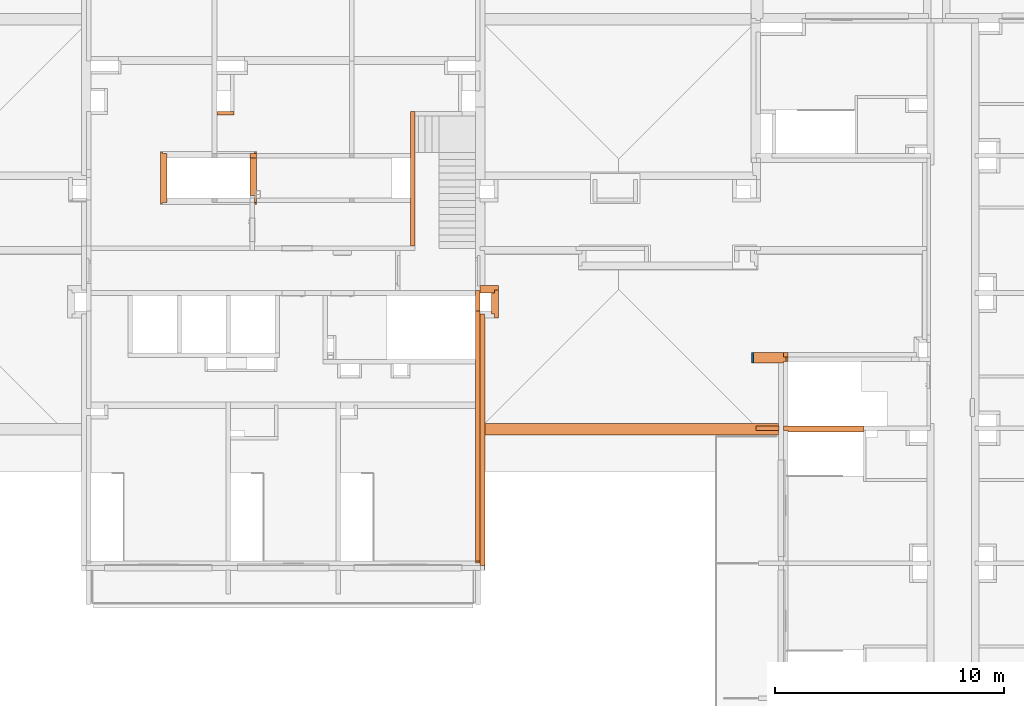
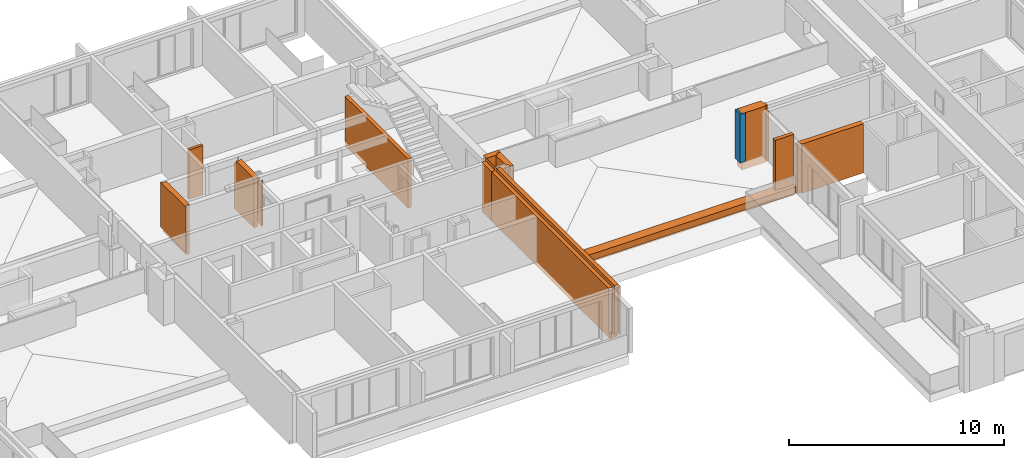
# One storey, part 21 of 30: 12 proxies, 1 wall, 1 opening.
"""IFC2X3 building model written with IfcOpenShell, lengths in millimetres."""

import ifcopenshell
import ifcopenshell.guid

model = None  # the IFC model being written
_history = None  # IfcOwnerHistory: only IFC2X3 demands one
_inside = {}  # id of a spatial element -> (the spatial element, [elements in it])
_under = {}  # id of a project, library or spatial element -> (it, [spatial elements below it])
_declared = {}  # id of a project -> (the project, [libraries it declares])
_typed = {}  # id of a type object -> (the type object, [elements of that type])
_made_of = {}  # id of a material, layer set ... -> (it, [elements and type objects made of it])


def new_model(schema):
    """Start an empty IFC model of exactly this schema.

    Asked for "IFC4X3", IfcOpenShell would pick the latest addendum, in which some entities
    have other attributes; the version numbers below select the first issue.
    IFC2X3 requires an IfcOwnerHistory on every rooted entity: one is made here for all.
    """
    global model, _history
    if schema == "IFC4X3":
        model = ifcopenshell.file(schema_version=(4, 3, 0, 0))
    else:
        model = ifcopenshell.file(schema=schema)
    _inside.clear()
    _under.clear()
    _declared.clear()
    _typed.clear()
    _made_of.clear()
    _history = None
    if model.schema == "IFC2X3":
        org = make("IfcOrganization", Name="unknown")
        user = make(
            "IfcPersonAndOrganization",
            ThePerson=make("IfcPerson", FamilyName="unknown"),
            TheOrganization=org,
        )
        app = make(
            "IfcApplication",
            ApplicationDeveloper=org,
            Version="unknown",
            ApplicationFullName="unknown",
            ApplicationIdentifier="unknown",
        )
        _history = make(
            "IfcOwnerHistory",
            OwningUser=user,
            OwningApplication=app,
            ChangeAction="ADDED",
            CreationDate=0,
        )
    return model


def make(cls, **values):
    """One entity of the class cls with the attributes given. An attribute that is None is left unset."""
    return model.create_entity(
        cls, **{name: value for name, value in values.items() if value is not None}
    )


def entity(cls, *values):
    """Any entity or typed value of the class cls, its attributes in the order of the schema. None: left unset."""
    e = model.create_entity(cls)
    for i, value in enumerate(values):
        if value is not None:
            e[i] = value
    return e


def rooted(cls, **values):
    """An entity with a GlobalId (a new one), such as an element, a storey or a relation."""
    return make(cls, GlobalId=ifcopenshell.guid.new(), OwnerHistory=_history, **values)


def si_unit(unit_type, name, prefix=None):
    """IfcSIUnit, for example si_unit("LENGTHUNIT", "METRE", prefix="MILLI")."""
    return make("IfcSIUnit", UnitType=unit_type, Prefix=prefix, Name=name)


def converted_unit(unit_type, name, factor, base, dimensions=None, offset=None):
    """IfcConversionBasedUnit, such as the inch: factor (a typed value) times the base unit."""
    return make(
        "IfcConversionBasedUnit"
        if offset is None
        else "IfcConversionBasedUnitWithOffset",
        ConversionOffset=offset,
        Dimensions=None
        if dimensions is None
        else entity("IfcDimensionalExponents", *dimensions),
        UnitType=unit_type,
        Name=name,
        ConversionFactor=make(
            "IfcMeasureWithUnit", ValueComponent=factor, UnitComponent=base
        ),
    )


def derived_unit(unit_type, elements):
    """IfcDerivedUnit: a product of units, each with its exponent."""
    return make(
        "IfcDerivedUnit",
        Elements=[
            make("IfcDerivedUnitElement", Unit=unit, Exponent=power)
            for unit, power in elements
        ],
        UnitType=unit_type,
    )


def money_unit(currency):
    """IfcMonetaryUnit."""
    return make("IfcMonetaryUnit", Currency=currency)


def assignment(units):
    """IfcUnitAssignment: the units of a project."""
    return None if units is None else make("IfcUnitAssignment", Units=units)


def point(xyz):
    """IfcCartesianPoint."""
    return None if xyz is None else make("IfcCartesianPoint", Coordinates=xyz)


def direction(xyz):
    """IfcDirection."""
    return None if xyz is None else make("IfcDirection", DirectionRatios=xyz)


def frame(location, z_axis=None, x_axis=None):
    """IfcAxis2Placement3D, a coordinate frame: its origin and axes. An axis left out is left unset."""
    return make(
        "IfcAxis2Placement3D",
        Location=point(location),
        Axis=direction(z_axis),
        RefDirection=direction(x_axis),
    )


def frame_2d(location, x_axis=None):
    """IfcAxis2Placement2D, a coordinate frame in the plane: its origin and x axis."""
    return make(
        "IfcAxis2Placement2D", Location=point(location), RefDirection=direction(x_axis)
    )


def origin_with_axes():
    """The frame at (0, 0, 0) with the z axis (0, 0, 1) and the x axis (1, 0, 0) written out."""
    return frame((0.0, 0.0, 0.0), z_axis=(0.0, 0.0, 1.0), x_axis=(1.0, 0.0, 0.0))


def origin_2d_with_axis():
    """The frame at (0, 0) in the plane with the x axis (1, 0) written out."""
    return frame_2d((0.0, 0.0), x_axis=(1.0, 0.0))


def place(relative_to, where):
    """IfcLocalPlacement: puts the frame where relative to a parent placement (None: the world)."""
    return make(
        "IfcLocalPlacement", PlacementRelTo=relative_to, RelativePlacement=where
    )


def context(
    kind, dimensions, precision=None, world=None, true_north=None, identifier=None
):
    """IfcGeometricRepresentationContext, for example the 3D "Model" context."""
    return make(
        "IfcGeometricRepresentationContext",
        ContextIdentifier=identifier,
        ContextType=kind,
        CoordinateSpaceDimension=dimensions,
        Precision=precision,
        WorldCoordinateSystem=world,
        TrueNorth=true_north,
    )


def subcontext(parent, identifier, kind, view, scale=None):
    """IfcGeometricRepresentationSubContext, for example "Body" below "Model"."""
    return make(
        "IfcGeometricRepresentationSubContext",
        ContextIdentifier=identifier,
        ContextType=kind,
        ParentContext=parent,
        TargetScale=scale,
        TargetView=view,
    )


def project(units=None, contexts=None):
    """IfcProject with its units and contexts."""
    return rooted(
        "IfcProject",
        Name="project",
        RepresentationContexts=contexts,
        UnitsInContext=assignment(units),
    )


def spatial(cls, under=None, at=None, **own):
    """A site, building, storey or space (cls), placed at a placement, below another one or the project."""
    s = rooted(cls, ObjectPlacement=at, **own)
    if under is not None:
        _under.setdefault(under.id(), (under, []))[1].append(s)
    return s


def profile(cls, at=None, kind="AREA", **sizes):
    """A parametric profile (cls). Its sizes go by their IFC names, for example OverallWidth=200.0."""
    return make(cls, ProfileType=kind, Position=at, **sizes)


def rectangle(**sizes):
    """IfcRectangleProfileDef."""
    return profile("IfcRectangleProfileDef", **sizes)


def extrude(swept, where, along, depth):
    """IfcExtrudedAreaSolid: the profile swept, set in the frame where, extruded along a direction by depth."""
    return make(
        "IfcExtrudedAreaSolid",
        SweptArea=swept,
        Position=where,
        ExtrudedDirection=direction(along),
        Depth=depth,
    )


def faces_of(points, faces, orient=None, outer=None):
    """IfcFace entities. A face is a list of loops; a loop is a list of indices into points, from 0.

    orient and outer hold one flag for each loop. By default every Orientation is true, the
    first loop of a face is its IfcFaceOuterBound and the others are IfcFaceBound.
    """
    made = []
    for i, loops in enumerate(faces):
        bounds = []
        for j, loop in enumerate(loops):
            is_outer = j == 0 if outer is None else outer[i][j]
            bounds.append(
                make(
                    "IfcFaceOuterBound" if is_outer else "IfcFaceBound",
                    Bound=make("IfcPolyLoop", Polygon=[points[k] for k in loop]),
                    Orientation=True if orient is None else orient[i][j],
                )
            )
        made.append(make("IfcFace", Bounds=bounds))
    return made


def faceted_brep(points, faces, orient=None, outer=None, voids=None):
    """IfcFacetedBrep: a solid bounded by flat faces; with voids (closed shells), ...WithVoids."""
    shared = [point(p) for p in points]
    hull = make("IfcClosedShell", CfsFaces=faces_of(shared, faces, orient, outer))
    if voids is None:
        return make("IfcFacetedBrep", Outer=hull)
    return make(
        "IfcFacetedBrepWithVoids",
        Outer=hull,
        Voids=[
            make(cls, CfsFaces=faces_of(shared, fs, o, b)) for cls, fs, o, b in voids
        ],
    )


def shape(context_of_items, identifier, shape_type, items):
    """IfcShapeRepresentation: the items that make up one representation, for example the "Body"."""
    return make(
        "IfcShapeRepresentation",
        ContextOfItems=context_of_items,
        RepresentationIdentifier=identifier,
        RepresentationType=shape_type,
        Items=items,
    )


def material(Name=None, Category=None):
    """IfcMaterial."""
    return make("IfcMaterial", Name=Name, Category=Category)


def material_list(materials):
    """IfcMaterialList."""
    return make("IfcMaterialList", Materials=materials)


def made_of(thing, what):
    """Note that an element or type object is made of a material, layer set ...; save() writes the relation."""
    if what is not None:
        _made_of.setdefault(what.id(), (what, []))[1].append(thing)
    return thing


def type_object(cls, material=None, **own):
    """A type object (cls), such as IfcWallType, which elements share."""
    return made_of(rooted(cls, **own), material)


def element(
    cls,
    number,
    at=None,
    inside=None,
    cuts=None,
    type_object=None,
    material=None,
    context=None,
    identifier="Body",
    shape_type=None,
    held_by="IfcProductDefinitionShape",
    body=None,
    shapes=None,
    **own,
):
    """One element of the class cls, such as IfcWall. Its Tag is "e" and its number.

    at: its placement. inside: the storey or other place that contains it. cuts: it is an
    opening in that element (IfcRelVoidsElement). A single representation is given by context,
    identifier, shape_type and body (its items); several are given by shapes. held_by: the class
    of the entity that holds the representations. save() writes the other relations.
    """
    e = rooted(cls, Tag="e%d" % number, ObjectPlacement=at, **own)
    if body is not None:
        shapes = [shape(context, identifier, shape_type, body)]
    if shapes is not None:
        e.Representation = make(held_by, Representations=shapes)
    if inside is not None:
        _inside.setdefault(inside.id(), (inside, []))[1].append(e)
    if cuts is not None:
        rooted(
            "IfcRelVoidsElement", RelatingBuildingElement=cuts, RelatedOpeningElement=e
        )
    if type_object is not None:
        _typed.setdefault(type_object.id(), (type_object, []))[1].append(e)
    return made_of(e, material)


def fill(opening, filler):
    """IfcRelFillsElement: the door or window that sits in an opening."""
    return rooted(
        "IfcRelFillsElement",
        RelatingOpeningElement=opening,
        RelatedBuildingElement=filler,
    )


def aggregate(whole, parts):
    """IfcRelAggregates: a whole, such as a stair, and the parts it consists of."""
    return rooted("IfcRelAggregates", RelatingObject=whole, RelatedObjects=parts)


def save(model, path):
    """Write the relations noted so far, then the file.

    IfcRelAggregates (storeys below a building ...), IfcRelContainedInSpatialStructure (elements
    in a storey), IfcRelDefinesByType, IfcRelAssociatesMaterial and IfcRelDeclares: one each for
    every whole, place, type object, material and project.
    """
    for whole, parts in _under.values():
        aggregate(whole, parts)
    for where, things in _inside.values():
        rooted(
            "IfcRelContainedInSpatialStructure",
            RelatedElements=things,
            RelatingStructure=where,
        )
    for kind, things in _typed.values():
        rooted("IfcRelDefinesByType", RelatedObjects=things, RelatingType=kind)
    for what, things in _made_of.values():
        rooted("IfcRelAssociatesMaterial", RelatedObjects=things, RelatingMaterial=what)
    for by, libraries in _declared.values():
        rooted("IfcRelDeclares", RelatingContext=by, RelatedDefinitions=libraries)
    model.write(path)


model = new_model("IFC2X3")

# Units and contexts
model_context = context("Model", 3, precision=0.01, world=origin_with_axes(), true_north=direction((0.34421633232, 0.938890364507)))
body_context = subcontext(model_context, "Body", "Model", "MODEL_VIEW")
ifc_project = project(units=[si_unit("LENGTHUNIT", "METRE", prefix="MILLI"), si_unit("AREAUNIT", "SQUARE_METRE"), si_unit("VOLUMEUNIT", "CUBIC_METRE"), converted_unit("PLANEANGLEUNIT", "DEGREE", entity("IfcPlaneAngleMeasure", 0.0174532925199), si_unit("PLANEANGLEUNIT", "RADIAN"), dimensions=[0, 0, 0, 0, 0, 0, 0]), si_unit("SOLIDANGLEUNIT", "STERADIAN"), money_unit("USD"), converted_unit("TIMEUNIT", "Year", entity("IfcTimeMeasure", 31556926.0), si_unit("TIMEUNIT", "SECOND"), dimensions=[0, 0, 1, 0, 0, 0, 0]), si_unit("MASSUNIT", "GRAM", prefix="KILO"), si_unit("THERMODYNAMICTEMPERATUREUNIT", "DEGREE_CELSIUS"), si_unit("LUMINOUSINTENSITYUNIT", "LUMEN"), si_unit("ENERGYUNIT", "JOULE", prefix="MEGA"), derived_unit("THERMALCONDUCTANCEUNIT", [(si_unit("POWERUNIT", "WATT"), 1), (si_unit("LENGTHUNIT", "METRE"), -1), (si_unit("THERMODYNAMICTEMPERATUREUNIT", "KELVIN"), -1)]), derived_unit("SPECIFICHEATCAPACITYUNIT", [(si_unit("ENERGYUNIT", "JOULE"), 1), (si_unit("MASSUNIT", "GRAM", prefix="KILO"), -1), (si_unit("THERMODYNAMICTEMPERATUREUNIT", "KELVIN"), -1)]), derived_unit("MASSDENSITYUNIT", [(si_unit("MASSUNIT", "GRAM", prefix="KILO"), 1), (si_unit("VOLUMEUNIT", "CUBIC_METRE"), -1)])], contexts=[model_context])

# Site, building, storey
site_placement = place(None, origin_with_axes())
site = spatial("IfcSite", under=ifc_project, at=site_placement, Name="USTRONIE MORSKIE", CompositionType="ELEMENT")
building_placement = place(site_placement, origin_with_axes())
building = spatial("IfcBuilding", under=site, at=building_placement, Name="Budynek", CompositionType="ELEMENT")
storey_placement = place(building_placement, frame((0.0, 0.0, 16000.0), z_axis=(0.0, 0.0, 1.0), x_axis=(1.0, 0.0, 0.0)))
storey = spatial("IfcBuildingStorey", under=building, at=storey_placement, Name="ANTRESOLA - KOND. TECHNICZNA", CompositionType="ELEMENT", Elevation=16000.0)

# Proxies
ifc_material_1 = material(Name="Tynk zewnętrzny")
ifc_material_2 = material(Name="Wełna ELEW")
ifc_material_3 = material(Name="Beton konstrukcyjny B25")
ifc_material_list_1 = material_list([ifc_material_1, ifc_material_2, ifc_material_3])
building_element_proxy_type_1 = type_object("IfcBuildingElementProxyType", Name="20+20 410", PredefinedType="NOTDEFINED")
proxy_1_placement = place(storey_placement, frame((396317.920919, 732011.199132, -160.0), z_axis=(0.0, 0.0, 1.0), x_axis=(0.0, -1.0, 0.0)))
element("IfcBuildingElementProxy", 1, at=proxy_1_placement, inside=storey, type_object=building_element_proxy_type_1, material=ifc_material_list_1, Name="SZ-01", context=body_context, shape_type="Brep", body=[
    faceted_brep([(5210.00009633, 300.0, 5.0), (4910.00009633, 300.000254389, 5.0), (4910.00009633, 310.0, 5.0), (5210.00009633, 310.0, 5.0), (7010.00063405, 300.0, 1.71373137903e-06), (11010.0000963, 300.0, 0.0), (11010.0000963, 300.0, 240.0), (11310.0000963, 300.0, 239.99999792), (11310.0000963, 300.0, 3000.0), (310.0, 300.0, 3000.0), (310.0, 300.000055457, 436.11198501), (4910.00009633, 300.000254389, 436.111982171), (5210.00007668, 300.0, 155.000001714), (5210.00007668, 300.0, 215.000001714), (5210.00007668, 300.0, 240.000001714), (7010.00063405, 300.0, 240.000001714), (7010.00063405, 300.0, 215.000001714), (7010.00063405, 300.0, 155.000001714), (7010.00063405, 300.0, 5.00000171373), (4910.00009633, 310.0, 436.11198217), (11010.0000963, 310.0, 240.0), (11010.0000963, 310.0, 0.0), (7010.00063405, 310.0, 1.71373137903e-06), (7010.00063405, 310.0, 5.00000171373), (7010.00063405, 310.0, 155.000001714), (7010.00063405, 310.0, 215.000001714), (7010.00063405, 310.0, 240.000001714), (5210.00007668, 310.0, 240.000001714), (5210.00007668, 310.0, 215.000001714), (5210.00007668, 310.0, 155.000001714), (4900.00035072, 310.0, 435.911987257), (310.0, 310.0, 435.911986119), (310.0, 310.0, 3000.0), (11310.0000963, 310.0, 3000.0), (11310.0000963, 310.0, 239.99999792)], [[[0, 1, 2, 3]], [[4, 5, 6, 7, 8, 9, 10, 11, 1, 0, 12, 13, 14, 15, 16, 17, 18]], [[2, 1, 11, 19]], [[20, 21, 22, 23, 24, 25, 26, 27, 28, 29, 3, 2, 19, 30, 31, 32, 33, 34]], [[12, 0, 3, 29, 28, 27, 14, 13]], [[5, 4, 22, 21]], [[6, 5, 21, 20]], [[7, 6, 20, 34]], [[8, 7, 34, 33]], [[9, 8, 33, 32]], [[10, 9, 32, 31]], [[10, 31, 30, 11]], [[15, 14, 27, 26]], [[4, 18, 17, 16, 15, 26, 25, 24, 23, 22]], [[19, 11, 30]]]),
    faceted_brep([(5210.00007668, 300.0, 240.000001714), (5210.00009633, 300.0, 5.0), (120.0, 300.0, 5.0), (120.0, 300.0, 3000.0), (11110.0000963, 300.0, 3000.0), (11110.0000963, 300.0, 239.99999792), (11010.0000963, 300.0, 240.0), (11010.0000963, 300.0, 0.0), (7010.00063405, 300.0, 1.71373137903e-06), (7010.00063405, 300.0, 240.000001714), (5210.00007668, 250.0, 240.000001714), (5210.00009633, 250.0, 5.0), (5210.00009633, 100.000000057, 5.0), (120.0, 100.000000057, 5.0), (120.0, 100.0, 3000.0), (11110.0000963, 100.0, 3000.0), (11110.0000963, 100.0, 239.99999792), (11010.0000963, 100.0, 240.0), (11010.0000963, 100.0, 0.0), (5210.00009633, 100.000000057, 0.0), (5210.00009633, 250.0, 0.0), (7010.00063405, 250.0, 1.71373137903e-06), (7010.00063405, 250.0, 240.000001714)], [[[0, 1, 2, 3, 4, 5, 6, 7, 8, 9]], [[10, 11, 1, 0]], [[12, 13, 2, 1, 11]], [[14, 3, 2, 13]], [[4, 3, 14, 15]], [[4, 15, 16, 5]], [[16, 17, 6, 5]], [[7, 6, 17, 18]], [[7, 18, 19, 20, 21, 8]], [[8, 21, 22, 9]], [[22, 10, 0, 9]], [[22, 21, 20, 11, 10]], [[14, 13, 12, 19, 18, 17, 16, 15]], [[19, 12, 11, 20]]]),
    faceted_brep([(0.0, -100.0, 2800.0), (2.8194335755e-08, 99.9822933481, 2800.0), (0.0, 100.0, 0.0), (0.0, -100.0, 0.0), (10910.0000963, 99.9996812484, 2800.0), (10910.0000963, -100.0, 2800.0), (10910.0000963, 100.0, 239.99999792), (11010.0000963, 100.0, 239.99999792), (11010.0000963, 100.0, 0.0), (11010.0000963, -100.0, 0.0), (11010.0000963, -100.0, 239.99999792), (10910.0000963, -100.0, 239.99999792)], [[[0, 1, 2, 3]], [[4, 1, 0, 5]], [[1, 4, 6, 7, 8, 2]], [[8, 9, 3, 2]], [[5, 0, 3, 9, 10, 11]], [[4, 5, 11, 6]], [[6, 11, 10, 7]], [[10, 9, 8, 7]]]),
])
ifc_material_4 = material(Name="Bloczki silikatowe")
building_element_proxy_type_2 = type_object("IfcBuildingElementProxyType", Name="Bloczki silikatowe 150", PredefinedType="NOTDEFINED")
proxy_2_placement = place(storey_placement, frame((385517.922418, 740721.199036, -160.0), z_axis=(0.0, 0.0, 1.0), x_axis=(-1.0, 0.0, 0.0)))
element("IfcBuildingElementProxy", 2, at=proxy_2_placement, inside=storey, type_object=building_element_proxy_type_2, material=ifc_material_4, Name="SW-04", context=body_context, shape_type="Brep", body=[
    faceted_brep([(-150.0, 150.0, 0.0), (600.001499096, 150.0, 0.0), (600.001499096, 0.0, 0.0), (-150.0, 0.0, 0.0), (-150.0, 150.0, 2800.0), (600.001499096, 150.0, 2800.0), (600.001499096, 0.0, 2800.0), (-150.0, 0.0, 2800.0)], [[[0, 1, 2, 3]], [[4, 5, 1, 0]], [[2, 1, 5, 6]], [[3, 2, 6, 7]], [[4, 0, 3, 7]], [[7, 6, 5, 4]]]),
])
building_element_proxy_type_3 = type_object("IfcBuildingElementProxyType", Name="Beton konstrukcyjny B25 200", PredefinedType="NOTDEFINED")
proxy_3_placement = place(storey_placement, frame((396317.920919, 732901.199036, -160.0), z_axis=(0.0, 0.0, 1.0), x_axis=(0.0, -1.0, 0.0)))
element("IfcBuildingElementProxy", 3, at=proxy_3_placement, inside=storey, type_object=building_element_proxy_type_3, material=ifc_material_3, Name="SW-01", context=body_context, shape_type="Brep", body=[
    faceted_brep([(0.0, -100.0, 0.0), (5.51639232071e-05, -100.0, 2800.0), (5.51639232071e-05, 99.9808749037, 2800.0), (5.51639232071e-05, 99.9808749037, 3000.0), (0.0, 100.0, 3000.0), (0.0, 100.0, 0.0), (889.999903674, -100.0, 0.0), (889.999903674, -100.0, 2800.0), (889.999903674, 99.9822933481, 2800.0), (889.999903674, 99.9822933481, 3000.0), (889.999903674, 100.0, 3000.0), (889.999903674, 100.0, 0.0)], [[[0, 1, 2, 3, 4, 5]], [[6, 7, 1, 0]], [[8, 2, 1, 7]], [[8, 9, 3, 2]], [[4, 3, 9, 10]], [[5, 4, 10, 11]], [[0, 5, 11, 6]], [[9, 8, 7, 6, 11, 10]]]),
])
proxy_4_placement = place(storey_placement, frame((393467.920919, 740631.199036, -160.0), z_axis=(0.0, 0.0, 1.0), x_axis=(0.0, -1.0, 0.0)))
element("IfcBuildingElementProxy", 4, at=proxy_4_placement, inside=storey, type_object=building_element_proxy_type_3, material=ifc_material_3, Name="SW-01", context=body_context, shape_type="Brep", body=[
    faceted_brep([(-90.0, -100.0, 2800.0), (5779.99526878, -100.0, 2800.0), (5779.99526878, 100.0, 2800.0), (-90.0, 100.0, 2800.0), (-90.0, -100.0, 0.0), (5779.99526878, -100.0, 0.0), (5779.99526878, 100.0, 0.0), (-90.0, 100.0, 0.0)], [[[0, 1, 2, 3]], [[4, 5, 1, 0]], [[6, 2, 1, 5]], [[3, 2, 6, 7]], [[7, 4, 0, 3]], [[7, 6, 5, 4]]]),
])
proxy_5_placement = place(storey_placement, frame((409467.920983, 726901.199036, 439.99999794), z_axis=(0.0, 0.0, 1.0), x_axis=(-1.0, 0.0, 0.0)))
element("IfcBuildingElementProxy", 5, at=proxy_5_placement, inside=storey, type_object=building_element_proxy_type_3, material=ifc_material_3, Name="SW-01", context=body_context, shape_type="Brep", body=[
    faceted_brep([(0.0, -100.0, 2850.00000206), (1000.00010803, -100.0, 2850.00000206), (1000.00010803, 100.0, 2850.00000206), (0.0, 100.0, 2850.00000206), (0.0, -100.0, 0.0), (1000.00010803, -100.0, 0.0), (1000.00010803, 100.0, 0.0), (0.0, 100.0, 0.0)], [[[0, 1, 2, 3]], [[4, 5, 1, 0]], [[2, 1, 5, 6]], [[3, 2, 6, 7]], [[4, 0, 3, 7]], [[7, 6, 5, 4]]]),
])
ifc_material_5 = material(Name="Izolacja akustyczna")
ifc_material_6 = material(Name="Płyta GK")
ifc_material_list_2 = material_list([ifc_material_3, ifc_material_5, ifc_material_6])
building_element_proxy_type_4 = type_object("IfcBuildingElementProxyType", Name="20+5 AKU 275", PredefinedType="NOTDEFINED")
proxy_6_placement = place(storey_placement, frame((382637.920919, 738801.199036, -160.0), z_axis=(0.0, 0.0, 1.0), x_axis=(0.0, -1.0, 0.0)))
element("IfcBuildingElementProxy", 6, at=proxy_6_placement, inside=storey, type_object=building_element_proxy_type_4, material=ifc_material_list_2, Name="SW-01", context=body_context, shape_type="Brep", body=[
    faceted_brep([(-100.0, -100.0, 2800.0), (-100.0, 100.0, 2800.0), (-100.0, 100.0, 0.0), (-100.0, -100.0, 0.0), (2050.0, 100.0, 2800.0), (2050.0, -100.0, 2800.0), (2050.0, 100.0, 0.0), (2050.0, -100.0, 0.0)], [[[0, 1, 2, 3]], [[4, 1, 0, 5]], [[1, 4, 6, 2]], [[6, 7, 3, 2]], [[5, 0, 3, 7]], [[4, 5, 7, 6]]]),
    faceted_brep([(-150.0, -150.0, 2800.0), (-150.0, -100.0, 2800.0), (-150.0, -100.0, 235.0), (-150.0, -150.0, 235.0), (2100.0, -100.0, 2800.0), (2100.0, -150.0, 2800.0), (2100.0, -100.0, 235.0), (2100.0, -150.0, 235.0)], [[[0, 1, 2, 3]], [[4, 1, 0, 5]], [[1, 4, 6, 2]], [[3, 2, 6, 7]], [[5, 0, 3, 7]], [[4, 5, 7, 6]]]),
    faceted_brep([(-175.0, -175.0, 2800.0), (-175.0, -150.0, 2800.0), (-175.0, -150.0, 235.0), (-175.0, -175.0, 235.0), (2125.0, -150.0, 2800.0), (2125.0, -175.0, 2800.0), (2125.0, -150.0, 235.0), (2125.0, -175.0, 235.0)], [[[0, 1, 2, 3]], [[4, 1, 0, 5]], [[1, 4, 6, 2]], [[3, 2, 6, 7]], [[5, 0, 3, 7]], [[4, 5, 7, 6]]]),
])
proxy_7_placement = place(storey_placement, frame((409767.920919, 726901.199036, -160.0), z_axis=(0.0, 0.0, 1.0), x_axis=(1.0, 0.0, 0.0)))
element("IfcBuildingElementProxy", 7, at=proxy_7_placement, inside=storey, type_object=building_element_proxy_type_4, material=ifc_material_list_2, Name="Œciana-007", context=body_context, shape_type="Brep", body=[
    faceted_brep([(3390.0, 100.0, 0.0), (3390.0, -100.0, 0.0), (-100.0, -100.0, 0.0), (-100.0, 100.0, 0.0), (3390.0, 100.0, 2800.0), (3390.0, -100.0, 2800.0), (-100.0, -100.0, 2800.0), (-100.0, 100.0, 2800.0)], [[[0, 1, 2, 3]], [[0, 4, 5, 1]], [[1, 5, 6, 2]], [[3, 2, 6, 7]], [[4, 0, 3, 7]], [[5, 4, 7, 6]]]),
    faceted_brep([(100.0, -100.0, 0.0), (3390.0, -100.0, 0.0), (3390.0, -150.0, 0.0), (100.0, -150.0, 0.0), (100.0, -100.0, 2800.0), (3390.0, -100.0, 2800.0), (3390.0, -150.0, 2800.0), (100.0, -150.0, 2800.0)], [[[0, 1, 2, 3]], [[4, 5, 1, 0]], [[2, 1, 5, 6]], [[3, 2, 6, 7]], [[4, 0, 3, 7]], [[7, 6, 5, 4]]]),
    faceted_brep([(100.0, -150.0, 0.0), (3390.0, -150.0, 0.0), (3390.0, -175.0, 0.0), (100.0, -175.0, 0.0), (100.0, -150.0, 2800.0), (3390.0, -150.0, 2800.0), (3390.0, -175.0, 2800.0), (100.0, -175.0, 2800.0)], [[[0, 1, 2, 3]], [[4, 5, 1, 0]], [[2, 1, 5, 6]], [[3, 2, 6, 7]], [[4, 0, 3, 7]], [[7, 6, 5, 4]]]),
])
ifc_material_list_3 = material_list([ifc_material_6, ifc_material_5, ifc_material_3])
proxy_8_placement = place(storey_placement, frame((386467.920919, 738801.199036, -160.0), z_axis=(0.0, 0.0, 1.0), x_axis=(0.0, -1.0, 0.0)))
element("IfcBuildingElementProxy", 8, at=proxy_8_placement, inside=storey, type_object=building_element_proxy_type_4, material=ifc_material_list_3, Name="SW-01", context=body_context, shape_type="Brep", body=[
    faceted_brep([(-100.0, 150.0, 2800.0), (-100.0, 175.0, 2800.0), (-175.0, 175.0, 2800.0), (-175.0, 150.0, 2800.0), (-100.0, 175.0, 2600.0), (-100.0, 150.0, 2600.0), (100.0, 175.0, 2600.0), (100.0, 175.0, 2800.0), (1850.0, 175.0, 2800.0), (1850.0, 175.0, 2600.0), (2050.0, 175.0, 2600.0), (2050.0, 175.0, 2800.0), (2125.00000596, 175.0, 2800.0), (2125.00000596, 175.0, 235.0), (-175.0, 175.0, 235.0), (-175.0, 150.0, 235.0), (2125.00000596, 150.0, 235.0), (2125.00000596, 150.0, 2800.0), (2050.0, 150.0, 2800.0), (2050.0, 150.0, 2600.0), (1850.0, 150.0, 2600.0), (1850.0, 150.0, 2800.0), (100.0, 150.0, 2800.0), (100.0, 150.0, 2600.0)], [[[0, 1, 2, 3]], [[4, 1, 0, 5]], [[6, 7, 8, 9, 10, 11, 12, 13, 14, 2, 1, 4]], [[15, 3, 2, 14]], [[5, 0, 3, 15, 16, 17, 18, 19, 20, 21, 22, 23]], [[6, 4, 5, 23]], [[22, 7, 6, 23]], [[7, 22, 21, 8]], [[9, 8, 21, 20]], [[10, 9, 20, 19]], [[18, 11, 10, 19]], [[11, 18, 17, 12]], [[13, 12, 17, 16]], [[14, 13, 16, 15]]]),
    faceted_brep([(-100.0, 100.0, 2800.0), (-100.0, 150.0, 2800.0), (-150.0, 150.0, 2800.0), (-150.0, 100.0, 2800.0), (-100.0, 150.0, 2600.0), (-100.0, 100.0, 2600.0), (100.0, 150.0, 2600.0), (100.0, 150.0, 2800.0), (1850.0, 150.0, 2800.0), (1850.0, 150.0, 2600.0), (2050.0, 150.0, 2600.0), (2050.0, 150.0, 2800.0), (2100.0, 150.0, 2800.0), (2100.0, 150.0, 235.0), (-150.0, 150.0, 235.0), (-150.0, 100.0, 235.0), (2100.0, 100.0, 235.0), (2100.0, 100.0, 2800.0), (2050.0, 100.0, 2800.0), (2050.0, 100.0, 2600.0), (1850.0, 100.0, 2600.0), (1850.0, 100.0, 2800.0), (100.0, 100.0, 2800.0), (100.0, 100.0, 2600.0)], [[[0, 1, 2, 3]], [[4, 1, 0, 5]], [[6, 7, 8, 9, 10, 11, 12, 13, 14, 2, 1, 4]], [[15, 3, 2, 14]], [[5, 0, 3, 15, 16, 17, 18, 19, 20, 21, 22, 23]], [[6, 4, 5, 23]], [[22, 7, 6, 23]], [[7, 22, 21, 8]], [[9, 8, 21, 20]], [[10, 9, 20, 19]], [[18, 11, 10, 19]], [[11, 18, 17, 12]], [[13, 12, 17, 16]], [[15, 14, 13, 16]]]),
    faceted_brep([(-100.0, -100.0, 2600.0), (-100.0, 100.0, 2600.0), (-100.0, 100.0, 0.0), (-100.0, -100.0, 0.0), (100.0, 100.0, 2600.0), (100.0, -100.0, 2600.0), (100.0, 100.0, 2800.0), (1750.0, 100.0, 2800.0), (1750.0, 100.0, 0.0), (1750.0, -100.0, 0.0), (1750.0, -100.0, 2800.0), (100.0, -100.0, 2800.0)], [[[0, 1, 2, 3]], [[4, 1, 0, 5]], [[4, 6, 7, 8, 2, 1]], [[3, 2, 8, 9]], [[5, 0, 3, 9, 10, 11]], [[11, 6, 4, 5]], [[6, 11, 10, 7]], [[8, 7, 10, 9]]]),
])

# Proxy, opening, wall
ifc_material_list_4 = material_list([ifc_material_1, ifc_material_2, ifc_material_3, ifc_material_2, ifc_material_1])
building_element_proxy_type_5 = type_object("IfcBuildingElementProxyType", Name="20+20-5 470", PredefinedType="NOTDEFINED")
proxy_9_placement = place(storey_placement, frame((409767.920919, 729901.198672, -245.0), z_axis=(0.0, 0.0, 1.0), x_axis=(-1.0, 0.0, 0.0)))
proxy_9 = element("IfcBuildingElementProxy", 9, at=proxy_9_placement, inside=storey, type_object=building_element_proxy_type_5, material=ifc_material_list_4, Name="Œciana-007", context=body_context, shape_type="Brep", body=[
    faceted_brep([(300.0, 160.0, 3295.0), (299.999985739, 160.0, 544.111990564), (299.999985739, 150.000019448, 544.111990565), (300.0, 150.0, 3295.0), (1500.03040244, 160.0, 3295.0), (1500.03040244, 160.0, 520.11138223), (1500.03040244, 150.0, 520.111382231), (1400.03047459, 150.000019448, 522.111380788), (1500.03040244, 150.0, 3295.0)], [[[0, 1, 2, 3]], [[4, 5, 1, 0]], [[6, 7, 2, 1, 5]], [[2, 7, 6, 8, 3]], [[3, 8, 4, 0]], [[8, 6, 5, 4]]]),
    faceted_brep([(1400.03047459, 100.0, 90.0), (1400.03047459, 100.0, 522.111380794), (1500.03040244, 100.0, 520.111382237), (1500.03040244, 100.0, 3295.0), (100.0, 100.0, 3295.0), (100.0, 100.0, 90.0), (1400.03047459, 150.000019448, 522.111380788), (1400.03047459, 150.000019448, 90.0), (1500.03040244, 150.0, 520.111382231), (1500.03040244, 150.0, 3295.0), (100.0, 150.0, 3295.0), (100.0, 150.0, 90.0)], [[[0, 1, 2, 3, 4, 5]], [[6, 1, 0, 7]], [[8, 2, 1, 6]], [[3, 2, 8, 9]], [[4, 3, 9, 10]], [[4, 10, 11, 5]], [[11, 7, 0, 5]], [[8, 6, 7, 11, 10, 9]]]),
    faceted_brep([(1400.03047459, -100.000032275, 85.0), (1400.03047459, -100.000032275, 522.111380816), (1500.03040244, -100.0, 520.111382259), (1500.03040244, -100.0, 3295.0), (0.0, -100.0, 3295.00000015), (0.0, -100.000346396, 3085.0), (100.0, -100.000346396, 3085.0), (100.0, -100.000346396, 2885.0), (-100.0, -100.000346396, 2885.0), (-100.0, -100.0, 85.0000008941), (0.0, -100.000032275, 85.0), (1400.03047459, 100.0, 522.111380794), (1400.03047459, 99.9999677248, 85.0), (1500.03040244, 100.0, 520.111382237), (1500.03040244, 100.0, 3295.0), (0.0, 100.0, 3295.00000015), (0.0, 100.0, 3085.0), (100.0, 99.9999677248, 3085.0), (100.0, 99.9999677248, 2885.0), (-100.0, 100.0, 2885.0), (-100.0, 100.0, 85.0000008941), (0.0, 99.9999677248, 85.0)], [[[0, 1, 2, 3, 4, 5, 6, 7, 8, 9, 10]], [[11, 1, 0, 12]], [[13, 2, 1, 11]], [[3, 2, 13, 14]], [[15, 4, 3, 14]], [[4, 15, 16, 5]], [[16, 17, 6, 5]], [[17, 18, 7, 6]], [[7, 18, 19, 8]], [[20, 9, 8, 19]], [[10, 9, 20, 21]], [[21, 12, 0, 10]], [[13, 11, 12, 21, 20, 19, 18, 17, 16, 15, 14]]]),
    faceted_brep([(1400.03047459, -300.000220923, 90.0), (1400.03047459, -300.000220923, 522.111380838), (1500.03040244, -300.0, 520.111382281), (1500.03040244, -300.0, 3295.0), (100.0, -300.0, 3295.0), (100.0, -300.0, 3085.0), (0.0, -300.0, 3085.0), (-100.0, -300.0, 3085.0), (-100.0, -300.0, 90.0), (1400.03047459, -100.0, 522.111380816), (1400.03047459, -100.0, 90.0), (1500.03040244, -100.0, 520.111382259), (1500.03040244, -100.0, 3295.0), (100.0, -100.0, 3295.0), (100.0, -100.0, 3085.0), (0.0, -100.0, 3085.0), (-100.0, -100.0, 3085.0), (-100.0, -100.0, 90.0)], [[[0, 1, 2, 3, 4, 5, 6, 7, 8]], [[9, 1, 0, 10]], [[11, 2, 1, 9]], [[3, 2, 11, 12]], [[4, 3, 12, 13]], [[4, 13, 14, 5]], [[6, 5, 14, 15]], [[15, 16, 7, 6]], [[7, 16, 17, 8]], [[17, 10, 0, 8]], [[11, 9, 10, 17, 16, 15, 14, 13, 12]]]),
    faceted_brep([(-100.0, -300.0, 3085.0), (-100.0, -300.000220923, 552.111990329), (-100.0, -310.0, 552.111990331), (-100.0, -310.0, 3085.0), (1500.03040244, -300.0, 520.111382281), (1400.03047459, -300.000220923, 522.111380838), (0.0, -300.0, 3085.0), (300.0, -300.0, 3085.0), (300.0, -300.0, 3295.0), (1500.03040244, -300.0, 3295.0), (1500.03040244, -310.0, 520.111382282), (1500.03040244, -310.0, 3295.0), (300.0, -310.000346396, 3295.0), (300.0, -310.000346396, 3085.0), (0.0, -310.000346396, 3085.0)], [[[0, 1, 2, 3]], [[4, 5, 1, 0, 6, 7, 8, 9]], [[4, 10, 2, 1, 5]], [[3, 2, 10, 11, 12, 13, 14]], [[6, 0, 3, 14]], [[7, 6, 14, 13]], [[12, 8, 7, 13]], [[12, 11, 9, 8]], [[11, 10, 4, 9]]]),
])
opening_placement = place(proxy_9_placement, frame((1500.03040244, 0.0, 0.0), z_axis=(0.0, 0.0, 1.0), x_axis=(1.0, 0.0, 0.0)))
opening = element("IfcOpeningElement", 10, at=opening_placement, cuts=proxy_9, Name="ZS1", context=body_context, shape_type="SweptSolid", body=[
    extrude(rectangle(XDim=9.99999999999, YDim=100.0, at=origin_2d_with_axis()), frame((-50.0, 155.0, 0.0), z_axis=(0.0, 0.0, 1.0), x_axis=(0.0, -1.0, 0.0)), (0.0, 0.0, 1.0), 3295.0),
    extrude(rectangle(XDim=9.99999999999, YDim=200.0, at=origin_2d_with_axis()), frame((-200.0, 155.0, 0.0), z_axis=(0.0, 0.0, 1.0), x_axis=(0.0, -1.0, 0.0)), (0.0, 0.0, 1.0), 3295.0),
    extrude(rectangle(XDim=9.99999999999, YDim=100.0, at=origin_2d_with_axis()), frame((-50.0, -305.0, 0.0), z_axis=(0.0, 0.0, 1.0), x_axis=(0.0, -1.0, 0.0)), (0.0, 0.0, 1.0), 3295.0),
    extrude(rectangle(XDim=9.99999999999, YDim=200.0, at=origin_2d_with_axis()), frame((-200.0, -305.0, 0.0), z_axis=(0.0, 0.0, 1.0), x_axis=(0.0, -1.0, 0.0)), (0.0, 0.0, 1.0), 3295.0),
    extrude(rectangle(XDim=450.0, YDim=100.0, at=origin_2d_with_axis()), frame((-50.0, -74.9999999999, 0.0), z_axis=(0.0, 0.0, 1.0), x_axis=(0.0, -1.0, 0.0)), (0.0, 0.0, 1.0), 3295.0),
])
wall_type = type_object("IfcWallType", Name="Zakończenie zamknięte 23", PredefinedType="NOTDEFINED")
wall_placement = place(opening_placement, frame((150.0, 0.0, 0.0), z_axis=(0.0, 0.0, 1.0), x_axis=(-1.0, 0.0, 0.0)))
wall = element("IfcWall", 11, at=wall_placement, inside=storey, type_object=wall_type, material=ifc_material_1, Name="ZS1", context=body_context, shape_type="Brep", body=[
    faceted_brep([(250.0, -160.0, 3295.0), (250.0, -160.0, 522.11138223), (249.999927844, -150.000019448, 522.111380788), (250.0, -150.0, 3295.0), (150.0, -160.0, 3295.0), (150.0, -160.0, 520.11138223), (150.0, -150.0, 520.111382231), (150.0, -150.0, 3295.0)], [[[0, 1, 2, 3]], [[4, 5, 1, 0]], [[5, 6, 2, 1]], [[3, 2, 6, 7]], [[4, 0, 3, 7]], [[7, 6, 5, 4]]]),
    faceted_brep([(250.0, 300.0, 3295.0), (249.999927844, 300.000220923, 522.111380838), (250.0, 310.0, 522.111382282), (250.0, 310.0, 3295.0), (150.0, 300.0, 3295.0), (150.0, 300.0, 520.111382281), (150.0, 310.0, 520.111382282), (150.0, 310.0, 3295.0)], [[[0, 1, 2, 3]], [[4, 5, 1, 0]], [[5, 6, 2, 1]], [[3, 2, 6, 7]], [[4, 0, 3, 7]], [[7, 6, 5, 4]]]),
    faceted_brep([(250.0, -150.0, 3295.0), (249.999927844, -150.000019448, 522.111380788), (249.999927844, 300.000220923, 522.111380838), (250.0, 300.0, 3295.0), (150.0, -150.0, 3295.0), (150.0, -150.0, 520.111382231), (150.0, 300.0, 520.111382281), (150.0, 300.0, 3295.0)], [[[0, 1, 2, 3]], [[4, 5, 1, 0]], [[5, 6, 2, 1]], [[3, 2, 6, 7]], [[4, 0, 3, 7]], [[7, 6, 5, 4]]]),
    faceted_brep([(450.0, -160.0, 526.11138223), (450.0, -150.000019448, 526.111382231), (450.0, -150.0, 3295.0), (450.0, -160.0, 3295.0), (249.999927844, -150.000019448, 522.111380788), (250.0, -160.0, 522.11138223), (250.0, -150.0, 3295.0), (250.0, -160.0, 3295.0)], [[[0, 1, 2, 3]], [[4, 1, 0, 5]], [[1, 4, 6, 2]], [[3, 2, 6, 7]], [[5, 0, 3, 7]], [[4, 5, 7, 6]]]),
    faceted_brep([(450.0, 300.000220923, 526.111382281), (450.0, 310.0, 526.111382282), (450.0, 310.0, 3295.0), (450.0, 300.0, 3295.0), (250.0, 310.0, 522.111382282), (249.999927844, 300.000220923, 522.111380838), (250.0, 310.0, 3295.0), (250.0, 300.0, 3295.0)], [[[0, 1, 2, 3]], [[4, 1, 0, 5]], [[1, 4, 6, 2]], [[3, 2, 6, 7]], [[5, 0, 3, 7]], [[4, 5, 7, 6]]]),
])
fill(opening, wall)

# Proxies
ifc_material_list_5 = material_list([ifc_material_1, ifc_material_2, ifc_material_4, ifc_material_2, ifc_material_1])
building_element_proxy_type_6 = type_object("IfcBuildingElementProxyType", Name="18 SILIKAT+20-10 500", PredefinedType="NOTDEFINED")
proxy_10_placement = place(storey_placement, frame((409457.920919, 726901.199036, -160.00000206), z_axis=(0.0, 0.0, 1.0), x_axis=(-1.0, 0.0, 0.0)))
element("IfcBuildingElementProxy", 12, at=proxy_10_placement, inside=storey, type_object=building_element_proxy_type_6, material=ifc_material_list_5, Name="Œciana-006", context=body_context, shape_type="Brep", body=[
    faceted_brep([(0.0, 300.0, 240.000003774), (0.0, 290.0, 240.000003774), (0.0, 290.0, 600.0), (0.0, 300.0, 600.0), (12840.0, 290.0, 240.000003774), (12840.0, 300.0, 240.000003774), (12840.0, 290.0, 600.0), (12840.0, 300.0, 600.0)], [[[0, 1, 2, 3]], [[4, 1, 0, 5]], [[1, 4, 6, 2]], [[2, 6, 7, 3]], [[5, 0, 3, 7]], [[4, 5, 7, 6]]]),
    faceted_brep([(0.0, 99.9999803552, 240.000003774), (0.0, 99.9999803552, 3.77394293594e-06), (0.0, 90.0, 0.0), (0.0, 90.0, 600.0), (0.0, 290.0, 600.0), (0.0, 290.0, 240.000003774), (12840.0, 99.9999803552, 240.000003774), (12840.0, 99.9999803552, 3.77394293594e-06), (12840.0, 90.0, 0.0), (12840.0, 90.0, 600.0), (12840.0, 290.0, 600.0), (12840.0, 290.0, 240.000003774)], [[[0, 1, 2, 3, 4, 5]], [[0, 6, 7, 1]], [[1, 7, 8, 2]], [[2, 8, 9, 3]], [[3, 9, 10, 4]], [[11, 5, 4, 10]], [[0, 5, 11, 6]], [[6, 11, 10, 9, 8, 7]]]),
    faceted_brep([(12840.0, -90.0, 600.0), (12840.0, 90.0, 600.0), (0.0, 90.0, 600.0), (0.0, -90.0, 600.0), (12840.0, -90.0, 0.0), (12840.0, 90.0, 0.0), (0.0, 90.0, 0.0), (0.0, -90.0, 0.0)], [[[0, 1, 2, 3]], [[0, 4, 5, 1]], [[1, 5, 6, 2]], [[3, 2, 6, 7]], [[4, 0, 3, 7]], [[5, 4, 7, 6]]]),
    faceted_brep([(0.0, -90.0, 5.00000206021), (0.0, -190.0, 5.00000206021), (0.0, -190.0, 600.0), (0.0, -90.0, 600.0), (12840.0, -190.0, 5.00000206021), (12840.0, -90.0, 5.00000206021), (12840.0, -190.0, 600.0), (12840.0, -90.0, 600.0)], [[[0, 1, 2, 3]], [[4, 1, 0, 5]], [[1, 4, 6, 2]], [[2, 6, 7, 3]], [[5, 0, 3, 7]], [[4, 5, 7, 6]]]),
    faceted_brep([(0.0, -190.0, 5.00000206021), (0.0, -200.0, 5.00000206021), (0.0, -200.0, 600.0), (0.0, -190.0, 600.0), (12840.0, -200.0, 5.00000206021), (12840.0, -190.0, 5.00000206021), (12840.0, -200.0, 600.0), (12840.0, -190.0, 600.0)], [[[0, 1, 2, 3]], [[4, 1, 0, 5]], [[1, 4, 6, 2]], [[2, 6, 7, 3]], [[5, 0, 3, 7]], [[4, 5, 7, 6]]]),
])
ifc_material_list_6 = material_list([ifc_material_1, ifc_material_2, ifc_material_4])
building_element_proxy_type_7 = type_object("IfcBuildingElementProxyType", Name="12+18_TERMO 310", PredefinedType="NOTDEFINED")
proxy_11_placement = place(storey_placement, frame((396317.920919, 732811.212086, -160.0), z_axis=(0.0, 0.0, 1.0), x_axis=(1.0, 0.0, 0.0)))
element("IfcBuildingElementProxy", 13, at=proxy_11_placement, inside=storey, type_object=building_element_proxy_type_7, material=ifc_material_list_6, Name="Œciana-006", context=body_context, shape_type="Brep", body=[
    faceted_brep([(909.987641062, 300.0, 5.0), (909.987641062, 310.0, 5.0), (909.987641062, 310.0, 3000.0), (909.987641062, 300.0, 3000.0), (100.000000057, 310.0, 5.0), (100.000000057, 300.0, 5.0), (100.0, 310.0, 3000.0), (100.0, 300.0, 3000.0)], [[[0, 1, 2, 3]], [[4, 1, 0, 5]], [[1, 4, 6, 2]], [[3, 2, 6, 7]], [[5, 0, 3, 7]], [[4, 5, 7, 6]]]),
    faceted_brep([(899.987641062, 120.0, 5.0), (899.987641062, 300.0, 5.0), (899.987641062, 300.0, 3000.0), (899.987641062, 120.0, 3000.0), (100.000000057, 300.0, 5.0), (100.000000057, 120.0, 5.0), (100.0, 300.0, 3000.0), (100.0, 120.0, 3000.0)], [[[0, 1, 2, 3]], [[4, 1, 0, 5]], [[1, 4, 6, 2]], [[3, 2, 6, 7]], [[5, 0, 3, 7]], [[4, 5, 7, 6]]]),
    faceted_brep([(719.987641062, 0.0, 3000.0), (719.987641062, 120.0, 3000.0), (100.0, 120.0, 3000.0), (100.0, 0.0, 3000.0), (719.987641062, 0.0, 0.0), (719.987641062, 120.0, 0.0), (100.0, 120.0, 0.0), (100.0, 0.0, 0.0)], [[[0, 1, 2, 3]], [[1, 0, 4, 5]], [[1, 5, 6, 2]], [[7, 3, 2, 6]], [[4, 0, 3, 7]], [[5, 4, 7, 6]]]),
])
proxy_12_placement = place(storey_placement, frame((396917.90856, 732811.212086, -160.0), z_axis=(0.0, 0.0, 1.0), x_axis=(0.0, -1.0, 0.0)))
element("IfcBuildingElementProxy", 14, at=proxy_12_placement, inside=storey, type_object=building_element_proxy_type_7, material=ifc_material_list_6, Name="Œciana-006", context=body_context, shape_type="Brep", body=[
    faceted_brep([(1110.01295382, 310.0, 5.0), (-300.0, 310.0, 5.0), (-300.0, 310.0, 3000.0), (1110.01295382, 310.0, 3000.0), (-300.0, 300.0, 5.0), (1110.01295382, 300.0, 5.0), (-300.0, 300.0, 3000.0), (1110.01295382, 300.0, 3000.0)], [[[0, 1, 2, 3]], [[4, 1, 0, 5]], [[1, 4, 6, 2]], [[7, 3, 2, 6]], [[5, 0, 3, 7]], [[4, 5, 7, 6]]]),
    faceted_brep([(1100.01295382, 300.0, 5.0), (-120.0, 300.0, 5.0), (-120.0, 300.0, 3000.0), (1100.01295382, 300.0, 3000.0), (-120.0, 120.0, 5.0), (1100.01295382, 120.0, 5.0), (-120.0, 120.0, 3000.0), (1100.01295382, 120.0, 3000.0)], [[[0, 1, 2, 3]], [[4, 1, 0, 5]], [[1, 4, 6, 2]], [[7, 3, 2, 6]], [[5, 0, 3, 7]], [[4, 5, 7, 6]]]),
    faceted_brep([(920.012953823, 120.0, 3000.0), (0.0, 120.0, 3000.0), (0.0, 0.0, 3000.0), (920.012953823, 0.0, 3000.0), (920.012953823, 120.0, 0.0), (0.0, 120.0, 0.0), (0.0, 0.0, 0.0), (920.012953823, 0.0, 0.0)], [[[0, 1, 2, 3]], [[4, 5, 1, 0]], [[2, 1, 5, 6]], [[3, 2, 6, 7]], [[3, 7, 4, 0]], [[7, 6, 5, 4]]]),
])

save(model, "model.ifc")
